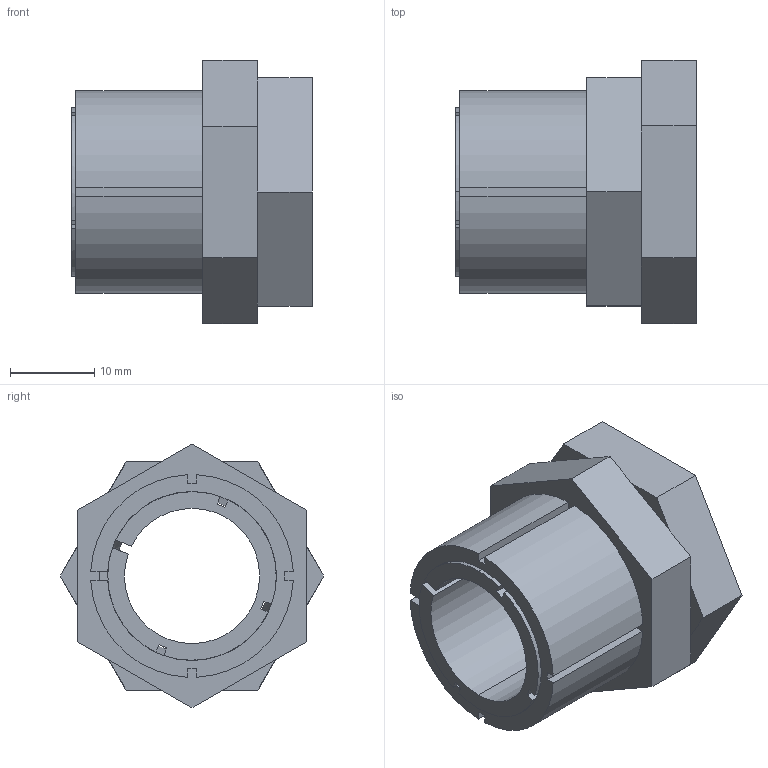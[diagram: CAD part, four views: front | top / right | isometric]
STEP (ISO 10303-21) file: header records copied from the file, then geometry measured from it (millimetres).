
FILE_DESCRIPTION (( 'STEP AP203' ), '1' );
FILE_NAME ('KBS 59 - 16 x 24.STEP', '2015-07-07T21:02:17', ( '' ), ( '' ), 'SwSTEP 2.0', 'SolidWorks 2010', '' );
FILE_SCHEMA (( 'CONFIG_CONTROL_DESIGN' ));
Length unit declared in the file: millimetre
Products named in the file (1): KBS 59 - 16 x 24
Bounding box: 28.5 x 31.18 x 31.18 mm (x, y, z)
Volume: 9022.4 mm3; surface area: 9044.6 mm2
Topology: 3 solids, 3 shells, 78 faces, 204 edges, 132 vertices
Faces by surface type: plane 56, cylinder 14, cone 8
Entity records: 2469 total; most frequent: CARTESIAN_POINT 451, ORIENTED_EDGE 408, DIRECTION 396, EDGE_CURVE 204, LINE 150, VECTOR 150, VERTEX_POINT 132, AXIS2_PLACEMENT_3D 123
